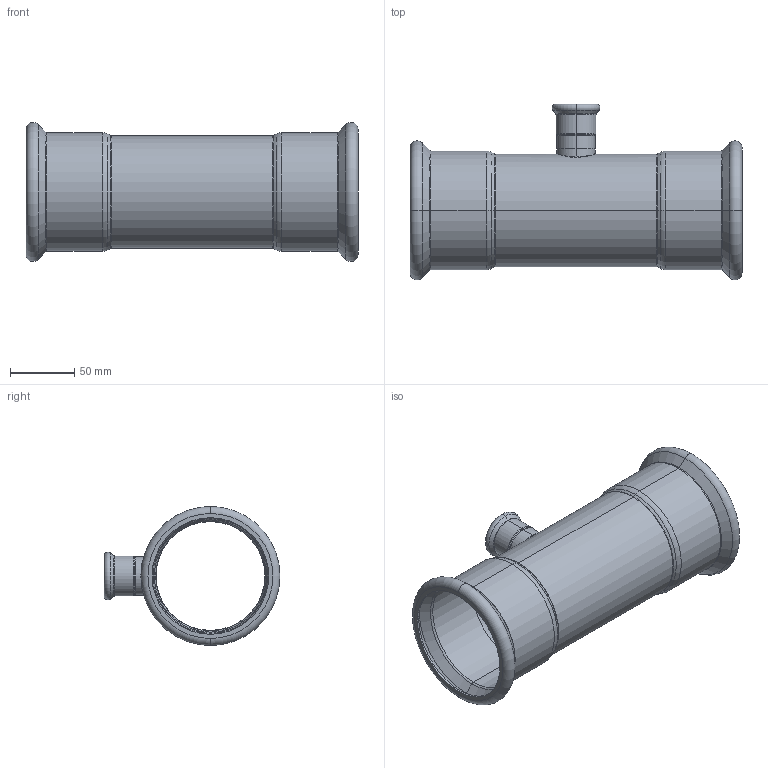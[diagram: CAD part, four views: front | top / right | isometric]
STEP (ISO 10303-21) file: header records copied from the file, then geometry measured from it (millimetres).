
FILE_DESCRIPTION (( 'STEP AP203' ), '1' );
FILE_NAME ('GDA5218.STEP', '2019-01-12T06:06:34', ( '' ), ( '' ), 'SwSTEP 2.0', 'SolidWorks 2015', '' );
FILE_SCHEMA (( 'CONFIG_CONTROL_DESIGN' ));
Length unit declared in the file: millimetre
Products named in the file (3): T-ｉ-01-28; T(R)-¢ñ-88.9¡Á28''; GDA5218
Assembly tree (2 placements, depth 2):
  GDA5218
    T(R)-¢ñ-88.9¡Á28''
    T-ｉ-01-28
Bounding box: 259 x 137.24 x 108.48 mm (x, y, z)
Volume: 122944.2 mm3; surface area: 165197.4 mm2
Topology: 2 solids, 2 shells, 114 faces, 234 edges, 128 vertices
Faces by surface type: torus 48, cylinder 30, cone 24, plane 8, bspline 4
Entity records: 4298 total; most frequent: CARTESIAN_POINT 1508, DIRECTION 620, ORIENTED_EDGE 468, AXIS2_PLACEMENT_3D 283, EDGE_CURVE 234, CIRCLE 168, VERTEX_POINT 128, EDGE_LOOP 124
